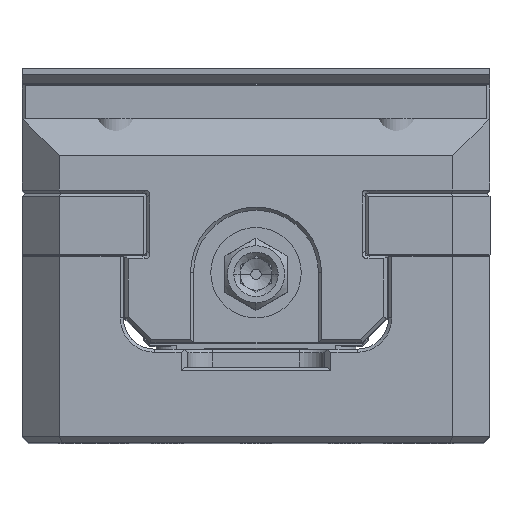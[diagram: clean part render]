
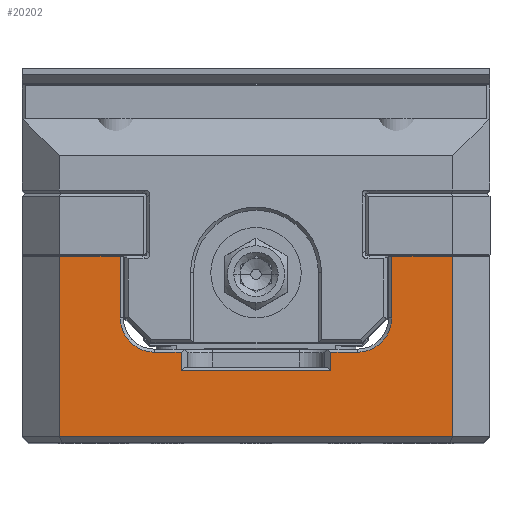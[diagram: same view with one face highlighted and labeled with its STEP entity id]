
A CAD part, top view. The second image highlights one B-rep face of the part: STEP entity #20202.
In plain terms, the highlighted planar face has unit normal (0, 0, 1).
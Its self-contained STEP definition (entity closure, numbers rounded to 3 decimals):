
#189=DIRECTION('',(0.,-1.,0.));
#190=VECTOR('',#189,9.9);
#191=CARTESIAN_POINT('',(-21.75,29.9,50.));
#192=LINE('',#191,#190);
#193=CARTESIAN_POINT('',(-16.25,20.,50.));
#194=DIRECTION('',(0.,0.,1.));
#195=DIRECTION('',(-1.,0.,0.));
#196=AXIS2_PLACEMENT_3D('',#193,#194,#195);
#198=DIRECTION('',(1.,0.,0.));
#199=VECTOR('',#198,4.25);
#200=CARTESIAN_POINT('',(-16.25,14.5,50.));
#201=LINE('',#200,#199);
#202=DIRECTION('',(0.,-1.,0.));
#203=VECTOR('',#202,3.);
#204=CARTESIAN_POINT('',(-12.,14.5,50.));
#205=LINE('',#204,#203);
#206=DIRECTION('',(0.,1.,0.));
#207=VECTOR('',#206,3.);
#208=CARTESIAN_POINT('',(12.,11.5,50.));
#209=LINE('',#208,#207);
#210=DIRECTION('',(1.,0.,0.));
#211=VECTOR('',#210,4.25);
#212=CARTESIAN_POINT('',(12.,14.5,50.));
#213=LINE('',#212,#211);
#214=CARTESIAN_POINT('',(16.25,20.,50.));
#215=DIRECTION('',(0.,0.,1.));
#216=DIRECTION('',(0.,-1.,0.));
#217=AXIS2_PLACEMENT_3D('',#214,#215,#216);
#219=DIRECTION('',(0.,1.,0.));
#220=VECTOR('',#219,9.9);
#221=CARTESIAN_POINT('',(21.75,20.,50.));
#222=LINE('',#221,#220);
#223=DIRECTION('',(1.,0.,0.));
#224=VECTOR('',#223,9.75);
#225=CARTESIAN_POINT('',(21.75,29.9,50.));
#226=LINE('',#225,#224);
#227=DIRECTION('',(0.,-1.,0.));
#228=VECTOR('',#227,28.9);
#229=CARTESIAN_POINT('',(31.5,29.9,50.));
#230=LINE('',#229,#228);
#231=DIRECTION('',(1.,0.,0.));
#232=VECTOR('',#231,63.);
#233=CARTESIAN_POINT('',(-31.5,1.,50.));
#234=LINE('',#233,#232);
#247=DIRECTION('',(0.,-1.,0.));
#248=VECTOR('',#247,28.9);
#249=CARTESIAN_POINT('',(-31.5,29.9,50.));
#250=LINE('',#249,#248);
#3724=DIRECTION('',(-1.,0.,0.));
#3725=VECTOR('',#3724,24.);
#3726=CARTESIAN_POINT('',(12.,11.5,50.));
#3727=LINE('',#3726,#3725);
#6176=DIRECTION('',(-1.,0.,0.));
#6177=VECTOR('',#6176,9.75);
#6178=CARTESIAN_POINT('',(-21.75,29.9,50.));
#6179=LINE('',#6178,#6177);
#17165=CARTESIAN_POINT('',(-21.75,29.9,50.));
#17166=VERTEX_POINT('',#17165);
#17167=CARTESIAN_POINT('',(-21.75,20.,
50.));
#17168=VERTEX_POINT('',#17167);
#17169=CARTESIAN_POINT('',(-31.5,29.9,50.));
#17170=VERTEX_POINT('',#17169);
#17171=CARTESIAN_POINT('',(-31.5,1.,50.));
#17172=CARTESIAN_POINT('',(31.5,1.,50.));
#17173=VERTEX_POINT('',#17171);
#17174=VERTEX_POINT('',#17172);
#17175=CARTESIAN_POINT('',(-16.25,14.5,50.));
#17176=VERTEX_POINT('',#17175);
#17177=CARTESIAN_POINT('',(-12.,14.5,50.));
#17178=VERTEX_POINT('',#17177);
#17179=CARTESIAN_POINT('',(-12.,11.5,50.));
#17180=VERTEX_POINT('',#17179);
#17181=CARTESIAN_POINT('',(12.,11.5,50.));
#17182=VERTEX_POINT('',#17181);
#17183=CARTESIAN_POINT('',(12.,14.5,50.));
#17184=VERTEX_POINT('',#17183);
#17185=CARTESIAN_POINT('',(16.25,14.5,50.));
#17186=VERTEX_POINT('',#17185);
#17187=CARTESIAN_POINT('',(21.75,20.,50.));
#17188=VERTEX_POINT('',#17187);
#17189=CARTESIAN_POINT('',(21.75,29.9,50.));
#17190=VERTEX_POINT('',#17189);
#17191=CARTESIAN_POINT('',(31.5,29.9,50.));
#17192=VERTEX_POINT('',#17191);
#20168=CARTESIAN_POINT('',(0.,0.,50.));
#20169=DIRECTION('',(0.,0.,1.));
#20170=DIRECTION('',(1.,0.,0.));
#20171=AXIS2_PLACEMENT_3D('',#20168,#20169,#20170);
#20172=PLANE('',#20171);
#20174=ORIENTED_EDGE('',*,*,#20173,.F.);
#20176=ORIENTED_EDGE('',*,*,#20175,.F.);
#20178=ORIENTED_EDGE('',*,*,#20177,.F.);
#20180=ORIENTED_EDGE('',*,*,#20179,.T.);
#20182=ORIENTED_EDGE('',*,*,#20181,.T.);
#20184=ORIENTED_EDGE('',*,*,#20183,.T.);
#20186=ORIENTED_EDGE('',*,*,#20185,.T.);
#20188=ORIENTED_EDGE('',*,*,#20187,.F.);
#20190=ORIENTED_EDGE('',*,*,#20189,.T.);
#20192=ORIENTED_EDGE('',*,*,#20191,.T.);
#20194=ORIENTED_EDGE('',*,*,#20193,.T.);
#20196=ORIENTED_EDGE('',*,*,#20195,.T.);
#20198=ORIENTED_EDGE('',*,*,#20197,.T.);
#20199=ORIENTED_EDGE('',*,*,#20159,.T.);
#20200=EDGE_LOOP('',(#20174,#20176,#20178,#20180,#20182,#20184,#20186,#20188,
#20190,#20192,#20194,#20196,#20198,#20199));
#20201=FACE_OUTER_BOUND('',#20200,.F.);
#20202=ADVANCED_FACE('',(#20201),#20172,.T.);
#197=CIRCLE('',#196,5.5);
#218=CIRCLE('',#217,5.5);
#20159=EDGE_CURVE('',#17192,#17174,#230,.T.);
#20173=EDGE_CURVE('',#17173,#17174,#234,.T.);
#20175=EDGE_CURVE('',#17170,#17173,#250,.T.);
#20177=EDGE_CURVE('',#17166,#17170,#6179,.T.);
#20179=EDGE_CURVE('',#17166,#17168,#192,.T.);
#20181=EDGE_CURVE('',#17168,#17176,#197,.T.);
#20183=EDGE_CURVE('',#17176,#17178,#201,.T.);
#20185=EDGE_CURVE('',#17178,#17180,#205,.T.);
#20187=EDGE_CURVE('',#17182,#17180,#3727,.T.);
#20189=EDGE_CURVE('',#17182,#17184,#209,.T.);
#20191=EDGE_CURVE('',#17184,#17186,#213,.T.);
#20193=EDGE_CURVE('',#17186,#17188,#218,.T.);
#20195=EDGE_CURVE('',#17188,#17190,#222,.T.);
#20197=EDGE_CURVE('',#17190,#17192,#226,.T.);
